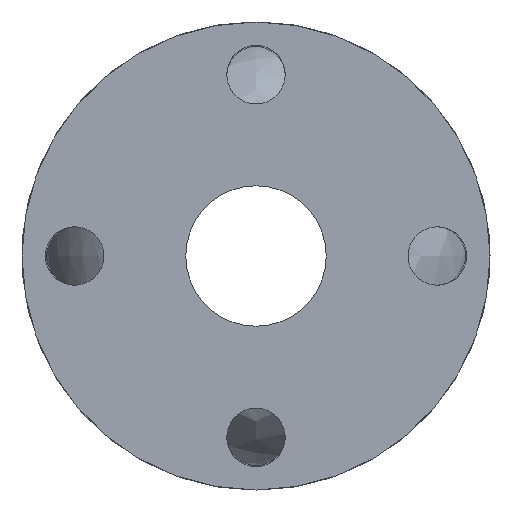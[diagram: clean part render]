
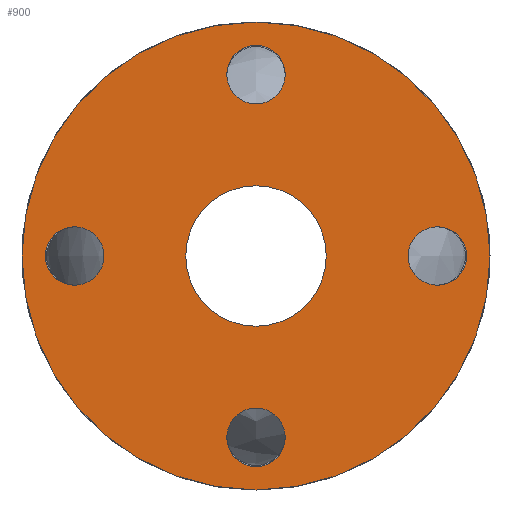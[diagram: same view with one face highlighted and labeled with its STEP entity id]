
A CAD part, left-side view. The second image highlights one B-rep face of the part: STEP entity #900.
In plain terms, the highlighted planar face has unit normal (-1, 0, 0).
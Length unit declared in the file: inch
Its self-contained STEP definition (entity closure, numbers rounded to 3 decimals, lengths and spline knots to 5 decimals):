
#247=CARTESIAN_POINT('',(-3.,0.3125,-1.9375));
#248=VERTEX_POINT('',#247);
#249=CARTESIAN_POINT('',(-3.,0.,-1.9375));
#250=DIRECTION('',(1.0,0.0,0.0));
#251=DIRECTION('',(0.0,-1.0,0.0));
#252=AXIS2_PLACEMENT_3D('',#249,#250,#251);
#253=CIRCLE('',#252,0.3125);
#254=EDGE_CURVE('',#248,#248,#253,.T.);
#275=CARTESIAN_POINT('',(-3.,-1.9375,-0.3125));
#276=VERTEX_POINT('',#275);
#277=CARTESIAN_POINT('',(-3.,-1.9375,0.));
#278=DIRECTION('',(1.0,0.0,0.0));
#279=DIRECTION('',(0.0,0.0,1.0));
#280=AXIS2_PLACEMENT_3D('',#277,#278,#279);
#281=CIRCLE('',#280,0.3125);
#282=EDGE_CURVE('',#276,#276,#281,.T.);
#303=CARTESIAN_POINT('',(-3.,-0.3125,1.9375));
#304=VERTEX_POINT('',#303);
#305=CARTESIAN_POINT('',(-3.,0.,1.9375));
#306=DIRECTION('',(1.0,0.0,0.0));
#307=DIRECTION('',(0.0,1.0,0.0));
#308=AXIS2_PLACEMENT_3D('',#305,#306,#307);
#309=CIRCLE('',#308,0.3125);
#310=EDGE_CURVE('',#304,#304,#309,.T.);
#331=CARTESIAN_POINT('',(-3.,1.9375,0.3125));
#332=VERTEX_POINT('',#331);
#333=CARTESIAN_POINT('',(-3.,1.9375,0.0));
#334=DIRECTION('',(1.0,0.0,0.0));
#335=DIRECTION('',(0.0,0.0,-1.0));
#336=AXIS2_PLACEMENT_3D('',#333,#334,#335);
#337=CIRCLE('',#336,0.3125);
#338=EDGE_CURVE('',#332,#332,#337,.T.);
#359=CARTESIAN_POINT('',(-3.,2.5,0.0));
#360=VERTEX_POINT('',#359);
#361=CARTESIAN_POINT('',(-3.,0.0,0.0));
#362=DIRECTION('',(1.0,0.0,0.0));
#363=DIRECTION('',(0.0,1.0,0.0));
#364=AXIS2_PLACEMENT_3D('',#361,#362,#363);
#365=CIRCLE('',#364,2.5);
#366=EDGE_CURVE('',#360,#360,#365,.T.);
#862=CARTESIAN_POINT('',(-3.0,0.75,0.0));
#863=VERTEX_POINT('',#862);
#864=CARTESIAN_POINT('',(-3.0,0.0,0.0));
#865=DIRECTION('',(1.0,0.0,0.0));
#866=DIRECTION('',(0.0,1.0,0.0));
#867=AXIS2_PLACEMENT_3D('',#864,#865,#866);
#868=CIRCLE('',#867,0.75);
#869=EDGE_CURVE('',#863,#863,#868,.T.);
#877=CARTESIAN_POINT('',(-3.,1.625,0.0));
#878=DIRECTION('',(-1.0,0.0,0.0));
#879=DIRECTION('',(0.0,0.0,1.0));
#880=AXIS2_PLACEMENT_3D('',#877,#878,#879);
#881=PLANE('',#880);
#882=ORIENTED_EDGE('',*,*,#366,.F.);
#883=EDGE_LOOP('',(#882));
#884=FACE_OUTER_BOUND('',#883,.T.);
#885=ORIENTED_EDGE('',*,*,#254,.T.);
#886=EDGE_LOOP('',(#885));
#887=FACE_BOUND('',#886,.T.);
#888=ORIENTED_EDGE('',*,*,#282,.T.);
#889=EDGE_LOOP('',(#888));
#890=FACE_BOUND('',#889,.T.);
#891=ORIENTED_EDGE('',*,*,#310,.T.);
#892=EDGE_LOOP('',(#891));
#893=FACE_BOUND('',#892,.T.);
#894=ORIENTED_EDGE('',*,*,#338,.T.);
#895=EDGE_LOOP('',(#894));
#896=FACE_BOUND('',#895,.T.);
#897=ORIENTED_EDGE('',*,*,#869,.T.);
#898=EDGE_LOOP('',(#897));
#899=FACE_BOUND('',#898,.T.);
#900=ADVANCED_FACE('',(#884,#887,#890,#893,#896,#899),#881,.T.);
